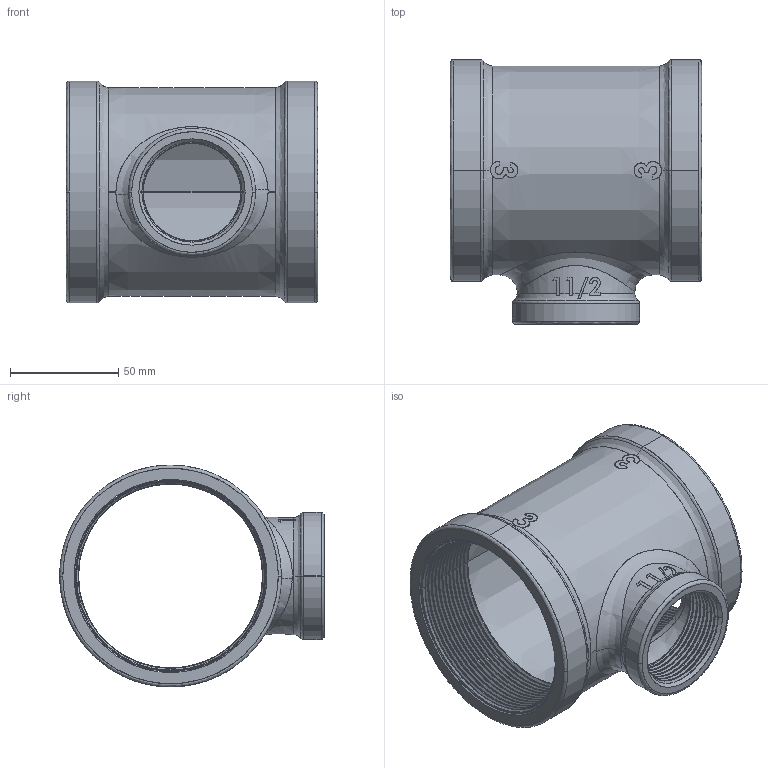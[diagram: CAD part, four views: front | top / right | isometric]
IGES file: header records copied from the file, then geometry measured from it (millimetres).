
Start section: SolidWorks IGES file using analytic representation for surfaces
Global section: file name: C:\Users\Joel Rosa\Desktop\Tubulação\12-45-XXX\12-45-054.IGS; native system: SolidWorks 2011; preprocessor: SolidWorks 2011; author: Joel Rosa; date: 121212.234736; units: millimetre
Bounding box: 116 x 122.2 x 102.4 mm (x, y, z)
Surface area: 90742.1 mm2 (no closed solid volume)
Topology: 0 solids, 0 shells, 511 faces, 5218 edges, 5218 vertices
Faces by surface type: bspline 340, revolution 171
